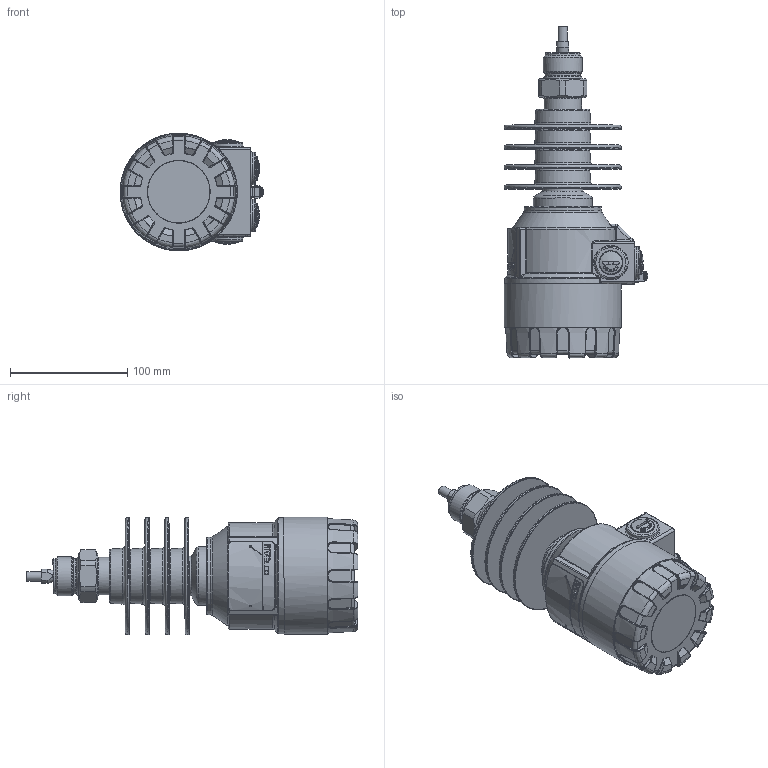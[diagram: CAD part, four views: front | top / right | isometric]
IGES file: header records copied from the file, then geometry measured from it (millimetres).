
Global section: file name: HHK_Alu_1 col; native system: Autodesk Inventor 2015; preprocessor: unknown; author: aantal; date: 20150619.130731; units: millimetre
Bounding box: 122.57 x 283.08 x 100.27 mm (x, y, z)
Volume: 1103981.5 mm3; surface area: 173567.1 mm2
Topology: 13 solids, 13 shells, 1316 faces, 3289 edges, 2050 vertices
Faces by surface type: bspline 1316
